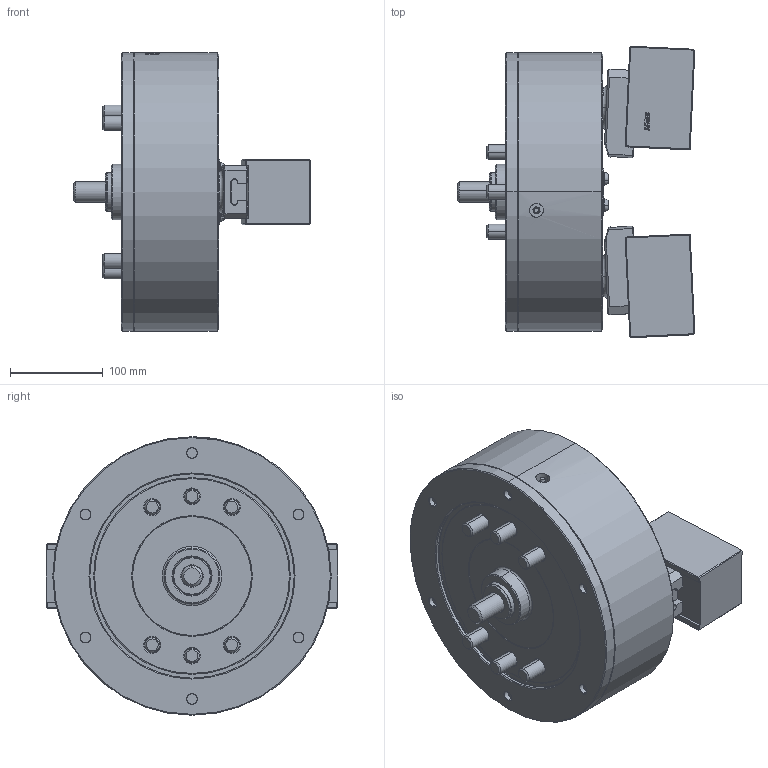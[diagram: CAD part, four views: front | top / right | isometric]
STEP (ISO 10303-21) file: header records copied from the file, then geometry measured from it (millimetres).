
FILE_DESCRIPTION (( 'STEP AP214' ), '1' );
FILE_NAME ('PWT12_UC_ID.STEP', '2019-10-23T00:07:02', ( '' ), ( '' ), 'SwSTEP 2.0', 'SolidWorks 2017', '' );
FILE_SCHEMA (( 'AUTOMOTIVE_DESIGN' ));
Length unit declared in the file: millimetre
Products named in the file (5): 結合_ID; 0030116025; 61P332346; 61P420193; PWT12_UC_ID
Assembly tree (9 placements, depth 2):
  PWT12_UC_ID
    61P420193  x2
    61P332346  x2
    0030116025  x4
    結合_ID
Bounding box: 256.15 x 314.03 x 300 mm (x, y, z)
Volume: 8453254.2 mm3; surface area: 517934.7 mm2
Topology: 9 solids, 10 shells, 1671 faces, 4094 edges, 2560 vertices
Faces by surface type: plane 879, cone 271, bspline 233, cylinder 230, torus 54, sphere 4
Entity records: 48801 total; most frequent: CARTESIAN_POINT 16863, ORIENTED_EDGE 6844, DIRECTION 5983, EDGE_CURVE 3422, VERTEX_POINT 2155, LINE 2013, VECTOR 2013, AXIS2_PLACEMENT_3D 1985
